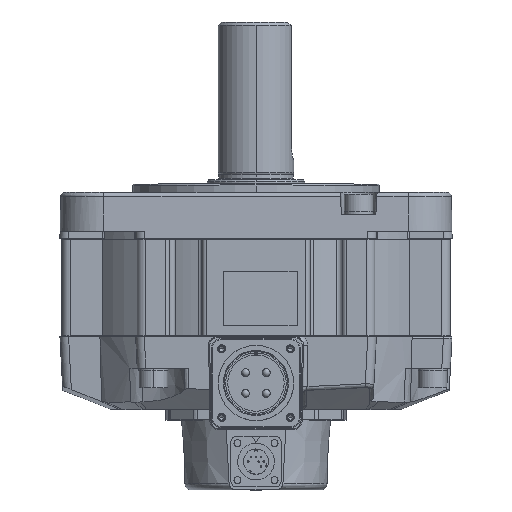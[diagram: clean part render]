
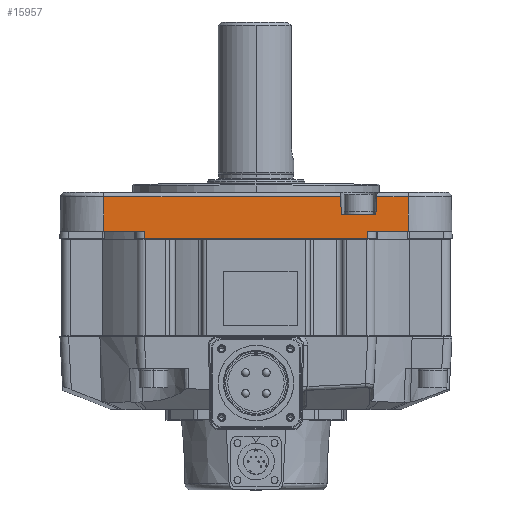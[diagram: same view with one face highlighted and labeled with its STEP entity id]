
A CAD part, top view. The second image highlights one B-rep face of the part: STEP entity #15957.
In plain terms, the highlighted planar face has unit normal (0, 0.018, 1).
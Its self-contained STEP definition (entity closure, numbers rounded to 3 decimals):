
#279=DIRECTION('',(1.,0.,0.));
#280=VECTOR('',#279,18.883);
#281=CARTESIAN_POINT('',(-70.688,8.5,90.685));
#282=LINE('',#281,#280);
#334=DIRECTION('',(-0.017,-1.,0.017));
#335=VECTOR('',#334,16.04);
#336=CARTESIAN_POINT('',(-70.408,24.535,90.405));
#337=LINE('',#336,#335);
#338=DIRECTION('',(1.,0.,0.));
#339=VECTOR('',#338,109.487);
#340=CARTESIAN_POINT('',(-70.408,24.535,90.405));
#341=LINE('',#340,#339);
#342=DIRECTION('',(0.052,-0.998,0.017));
#343=VECTOR('',#342,8.047);
#344=CARTESIAN_POINT('',(39.079,24.535,90.405));
#345=LINE('',#344,#343);
#346=DIRECTION('',(1.,0.,0.));
#347=VECTOR('',#346,16.);
#348=CARTESIAN_POINT('',(39.5,16.5,90.545));
#349=LINE('',#348,#347);
#350=DIRECTION('',(-0.052,-0.998,0.017));
#351=VECTOR('',#350,8.047);
#352=CARTESIAN_POINT('',(55.921,24.535,90.405));
#353=LINE('',#352,#351);
#354=DIRECTION('',(1.,0.,0.));
#355=VECTOR('',#354,14.487);
#356=CARTESIAN_POINT('',(55.921,24.535,90.405));
#357=LINE('',#356,#355);
#358=DIRECTION('',(0.017,-1.,0.017));
#359=VECTOR('',#358,16.04);
#360=CARTESIAN_POINT('',(70.408,24.535,90.405));
#361=LINE('',#360,#359);
#362=DIRECTION('',(0.017,1.,-0.017));
#363=VECTOR('',#362,3.251);
#364=CARTESIAN_POINT('',(51.748,5.25,90.741));
#365=LINE('',#364,#363);
#366=DIRECTION('',(0.017,-1.,0.017));
#367=VECTOR('',#366,3.251);
#368=CARTESIAN_POINT('',(-51.805,8.5,90.685));
#369=LINE('',#368,#367);
#401=CARTESIAN_POINT('',(-70.408,24.535,90.405));
#403=CARTESIAN_POINT('',(-70.688,8.5,90.685));
#1080=CARTESIAN_POINT('',(70.408,24.535,90.405));
#1127=CARTESIAN_POINT('',(70.688,8.5,90.685));
#1170=DIRECTION('',(1.,0.,0.));
#1171=VECTOR('',#1170,18.883);
#1172=CARTESIAN_POINT('',(51.805,8.5,90.685));
#1173=LINE('',#1172,#1171);
#11062=CARTESIAN_POINT('',(-51.748,5.25,90.741));
#11072=DIRECTION('',(1.,0.,0.));
#11073=VECTOR('',#11072,103.496);
#11074=CARTESIAN_POINT('',(-51.748,5.25,90.741));
#11075=LINE('',#11074,#11073);
#11084=CARTESIAN_POINT('',(51.748,5.25,90.741));
#11621=CARTESIAN_POINT('',(-51.805,8.5,90.685));
#12849=VERTEX_POINT('',#1080);
#12876=VERTEX_POINT('',#401);
#12879=CARTESIAN_POINT('',(55.921,24.535,90.405));
#12880=VERTEX_POINT('',#12879);
#12881=CARTESIAN_POINT('',(39.079,24.535,90.405));
#12882=VERTEX_POINT('',#12881);
#12917=CARTESIAN_POINT('',(39.5,16.5,90.545));
#12918=CARTESIAN_POINT('',(55.5,16.5,90.545));
#12919=VERTEX_POINT('',#12917);
#12920=VERTEX_POINT('',#12918);
#12948=VERTEX_POINT('',#1127);
#12949=VERTEX_POINT('',#403);
#13142=VERTEX_POINT('',#11621);
#13190=VERTEX_POINT('',#11062);
#13196=VERTEX_POINT('',#11084);
#13197=CARTESIAN_POINT('',(51.805,8.5,90.685));
#13198=VERTEX_POINT('',#13197);
#15927=CARTESIAN_POINT('',(-93.994,4.75,90.75));
#15928=DIRECTION('',(0.,0.017,1.));
#15929=DIRECTION('',(-1.,0.,0.));
#15930=AXIS2_PLACEMENT_3D('',#15927,#15928,#15929);
#15931=PLANE('',#15930);
#15932=ORIENTED_EDGE('',*,*,#15893,.F.);
#15934=ORIENTED_EDGE('',*,*,#15933,.F.);
#15936=ORIENTED_EDGE('',*,*,#15935,.T.);
#15938=ORIENTED_EDGE('',*,*,#15937,.T.);
#15940=ORIENTED_EDGE('',*,*,#15939,.T.);
#15942=ORIENTED_EDGE('',*,*,#15941,.F.);
#15944=ORIENTED_EDGE('',*,*,#15943,.T.);
#15946=ORIENTED_EDGE('',*,*,#15945,.T.);
#15948=ORIENTED_EDGE('',*,*,#15947,.F.);
#15950=ORIENTED_EDGE('',*,*,#15949,.F.);
#15952=ORIENTED_EDGE('',*,*,#15951,.F.);
#15954=ORIENTED_EDGE('',*,*,#15953,.F.);
#15955=EDGE_LOOP('',(#15932,#15934,#15936,#15938,#15940,#15942,#15944,#15946,
#15948,#15950,#15952,#15954));
#15956=FACE_OUTER_BOUND('',#15955,.F.);
#15957=ADVANCED_FACE('',(#15956),#15931,.T.);
#15893=EDGE_CURVE('',#12949,#13142,#282,.T.);
#15933=EDGE_CURVE('',#12876,#12949,#337,.T.);
#15935=EDGE_CURVE('',#12876,#12882,#341,.T.);
#15937=EDGE_CURVE('',#12882,#12919,#345,.T.);
#15939=EDGE_CURVE('',#12919,#12920,#349,.T.);
#15941=EDGE_CURVE('',#12880,#12920,#353,.T.);
#15943=EDGE_CURVE('',#12880,#12849,#357,.T.);
#15945=EDGE_CURVE('',#12849,#12948,#361,.T.);
#15947=EDGE_CURVE('',#13198,#12948,#1173,.T.);
#15949=EDGE_CURVE('',#13196,#13198,#365,.T.);
#15951=EDGE_CURVE('',#13190,#13196,#11075,.T.);
#15953=EDGE_CURVE('',#13142,#13190,#369,.T.);
